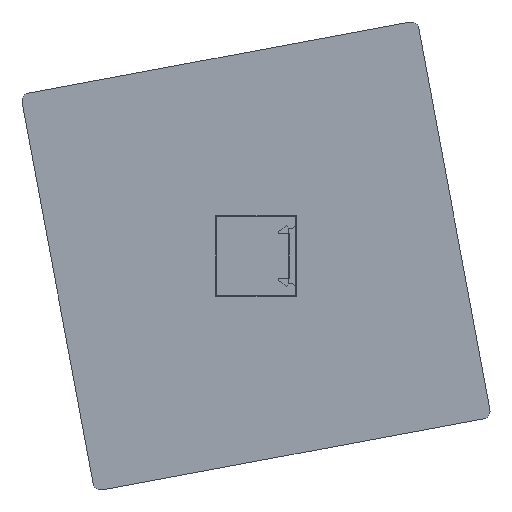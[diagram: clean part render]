
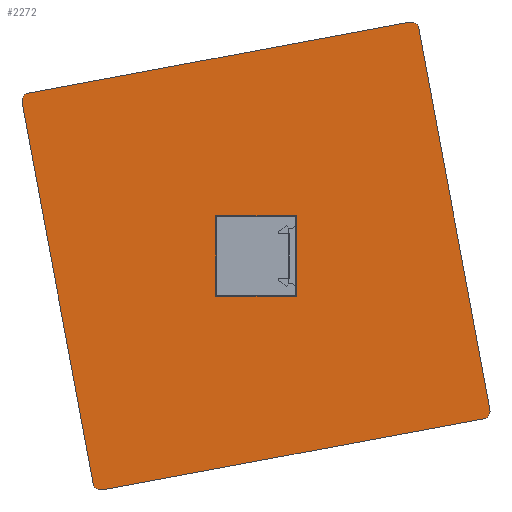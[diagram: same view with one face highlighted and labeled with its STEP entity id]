
A CAD part, left-side view. The second image highlights one B-rep face of the part: STEP entity #2272.
In plain terms, the highlighted planar face has unit normal (-1, 0, 0).
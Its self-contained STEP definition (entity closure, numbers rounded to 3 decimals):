
#11 = CARTESIAN_POINT ( 'NONE',  ( 875.5, 40.352, -56.354 ) ) ;
#67 = AXIS2_PLACEMENT_3D ( 'NONE', #473, #1870, #232 ) ;
#113 = CARTESIAN_POINT ( 'NONE',  ( 875.5, 0., 0. ) ) ;
#161 = DIRECTION ( 'NONE',  ( 0., -0.983, 0.183 ) ) ;
#208 = AXIS2_PLACEMENT_3D ( 'NONE', #2959, #1569, #161 ) ;
#231 = CARTESIAN_POINT ( 'NONE',  ( 875.5, 57.953, 38.019 ) ) ;
#232 = DIRECTION ( 'NONE',  ( 0., -0.983, 0.183 ) ) ;
#273 = VECTOR ( 'NONE', #275, 1000. ) ;
#275 = DIRECTION ( 'NONE',  ( 0., -0.183, -0.983 ) ) ;
#325 = ORIENTED_EDGE ( 'NONE', *, *, #2824, .F. ) ;
#346 = EDGE_LOOP ( 'NONE', ( #370, #1385 ) ) ;
#349 = DIRECTION ( 'NONE',  ( 0., 0.183, 0.983 ) ) ;
#370 = ORIENTED_EDGE ( 'NONE', *, *, #1412, .T. ) ;
#385 = AXIS2_PLACEMENT_3D ( 'NONE', #2785, #1154, #2556 ) ;
#415 = AXIS2_PLACEMENT_3D ( 'NONE', #788, #2412, #1920 ) ;
#449 = CIRCLE ( 'NONE', #385, 2. ) ;
#463 = LINE ( 'NONE', #2550, #2322 ) ;
#464 = LINE ( 'NONE', #1944, #2245 ) ;
#473 = CARTESIAN_POINT ( 'NONE',  ( 875.5, 55.987, 38.386 ) ) ;
#498 = DIRECTION ( 'NONE',  ( -1., 0., 0. ) ) ;
#510 = VERTEX_POINT ( 'NONE', #1728 ) ;
#527 = CARTESIAN_POINT ( 'NONE',  ( 875.5, -58.32, -39.985 ) ) ;
#578 = CARTESIAN_POINT ( 'NONE',  ( 875.5, -40.352, 56.354 ) ) ;
#593 = AXIS2_PLACEMENT_3D ( 'NONE', #113, #1749, #349 ) ;
#694 = VERTEX_POINT ( 'NONE', #2803 ) ;
#718 = CARTESIAN_POINT ( 'NONE',  ( 875.5, 1.1, 5.898 ) ) ;
#720 = EDGE_CURVE ( 'NONE', #735, #1508, #2375, .T. ) ;
#735 = VERTEX_POINT ( 'NONE', #1635 ) ;
#750 = LINE ( 'NONE', #769, #1441 ) ;
#769 = CARTESIAN_POINT ( 'NONE',  ( 875.5, 39.985, -58.32 ) ) ;
#771 = ORIENTED_EDGE ( 'NONE', *, *, #720, .T. ) ;
#774 = EDGE_CURVE ( 'NONE', #2557, #1404, #449, .T. ) ;
#788 = CARTESIAN_POINT ( 'NONE',  ( 875.5, 0., 0. ) ) ;
#796 = AXIS2_PLACEMENT_3D ( 'NONE', #3001, #498, #2122 ) ;
#834 = EDGE_CURVE ( 'NONE', #694, #1787, #2778, .T. ) ;
#856 = AXIS2_PLACEMENT_3D ( 'NONE', #3008, #1362, #2768 ) ;
#1096 = ORIENTED_EDGE ( 'NONE', *, *, #1202, .T. ) ;
#1118 = ORIENTED_EDGE ( 'NONE', *, *, #774, .T. ) ;
#1154 = DIRECTION ( 'NONE',  ( -1., 0., 0. ) ) ;
#1202 = EDGE_CURVE ( 'NONE', #1709, #510, #2040, .T. ) ;
#1251 = CARTESIAN_POINT ( 'NONE',  ( 875.5, -38.019, 57.953 ) ) ;
#1362 = DIRECTION ( 'NONE',  ( -1., 0., 0. ) ) ;
#1385 = ORIENTED_EDGE ( 'NONE', *, *, #2558, .T. ) ;
#1404 = VERTEX_POINT ( 'NONE', #1251 ) ;
#1412 = EDGE_CURVE ( 'NONE', #2007, #2963, #1963, .T. ) ;
#1441 = VECTOR ( 'NONE', #2404, 1000. ) ;
#1493 = DIRECTION ( 'NONE',  ( 0., -0.983, 0.183 ) ) ;
#1508 = VERTEX_POINT ( 'NONE', #231 ) ;
#1516 = ORIENTED_EDGE ( 'NONE', *, *, #2398, .F. ) ;
#1569 = DIRECTION ( 'NONE',  ( -1., 0., 0. ) ) ;
#1623 = DIRECTION ( 'NONE',  ( 0., 0.183, 0.983 ) ) ;
#1635 = CARTESIAN_POINT ( 'NONE',  ( 875.5, 56.354, 40.352 ) ) ;
#1709 = VERTEX_POINT ( 'NONE', #11 ) ;
#1728 = CARTESIAN_POINT ( 'NONE',  ( 875.5, 38.019, -57.953 ) ) ;
#1729 = ORIENTED_EDGE ( 'NONE', *, *, #2498, .F. ) ;
#1739 = FACE_OUTER_BOUND ( 'NONE', #1824, .T. ) ;
#1749 = DIRECTION ( 'NONE',  ( 1., 0., 0. ) ) ;
#1780 = ORIENTED_EDGE ( 'NONE', *, *, #2456, .F. ) ;
#1787 = VERTEX_POINT ( 'NONE', #1885 ) ;
#1824 = EDGE_LOOP ( 'NONE', ( #325, #1096, #1780, #2337, #1516, #1118, #1729, #771 ) ) ;
#1870 = DIRECTION ( 'NONE',  ( -1., 0., 0. ) ) ;
#1885 = CARTESIAN_POINT ( 'NONE',  ( 875.5, -57.953, -38.019 ) ) ;
#1920 = DIRECTION ( 'NONE',  ( 0., 0.183, 0.983 ) ) ;
#1944 = CARTESIAN_POINT ( 'NONE',  ( 875.5, 58.32, 39.985 ) ) ;
#1963 = CIRCLE ( 'NONE', #415, 6. ) ;
#2007 = VERTEX_POINT ( 'NONE', #2640 ) ;
#2040 = CIRCLE ( 'NONE', #208, 2. ) ;
#2122 = DIRECTION ( 'NONE',  ( 0., -0.983, 0.183 ) ) ;
#2133 = LINE ( 'NONE', #527, #273 ) ;
#2245 = VECTOR ( 'NONE', #1493, 1000. ) ;
#2272 = ADVANCED_FACE ( 'NONE', ( #2980, #1739 ), #2541, .T. ) ;
#2322 = VECTOR ( 'NONE', #1623, 1000. ) ;
#2337 = ORIENTED_EDGE ( 'NONE', *, *, #834, .T. ) ;
#2375 = CIRCLE ( 'NONE', #67, 2. ) ;
#2398 = EDGE_CURVE ( 'NONE', #2557, #1787, #2133, .T. ) ;
#2404 = DIRECTION ( 'NONE',  ( 0., 0.983, -0.183 ) ) ;
#2412 = DIRECTION ( 'NONE',  ( 1., 0., 0. ) ) ;
#2456 = EDGE_CURVE ( 'NONE', #694, #510, #750, .T. ) ;
#2498 = EDGE_CURVE ( 'NONE', #735, #1404, #464, .T. ) ;
#2541 = PLANE ( 'NONE',  #796 ) ;
#2550 = CARTESIAN_POINT ( 'NONE',  ( 875.5, 39.985, -58.32 ) ) ;
#2556 = DIRECTION ( 'NONE',  ( 0., -0.983, 0.183 ) ) ;
#2557 = VERTEX_POINT ( 'NONE', #578 ) ;
#2558 = EDGE_CURVE ( 'NONE', #2963, #2007, #2721, .T. ) ;
#2640 = CARTESIAN_POINT ( 'NONE',  ( 875.5, -1.1, -5.898 ) ) ;
#2721 = CIRCLE ( 'NONE', #593, 6. ) ;
#2768 = DIRECTION ( 'NONE',  ( 0., -0.983, 0.183 ) ) ;
#2778 = CIRCLE ( 'NONE', #856, 2. ) ;
#2785 = CARTESIAN_POINT ( 'NONE',  ( 875.5, -38.386, 55.987 ) ) ;
#2803 = CARTESIAN_POINT ( 'NONE',  ( 875.5, -56.354, -40.352 ) ) ;
#2824 = EDGE_CURVE ( 'NONE', #1709, #1508, #463, .T. ) ;
#2959 = CARTESIAN_POINT ( 'NONE',  ( 875.5, 38.386, -55.987 ) ) ;
#2963 = VERTEX_POINT ( 'NONE', #718 ) ;
#2980 = FACE_BOUND ( 'NONE', #346, .T. ) ;
#3001 = CARTESIAN_POINT ( 'NONE',  ( 875.5, 0., 0. ) ) ;
#3008 = CARTESIAN_POINT ( 'NONE',  ( 875.5, -55.987, -38.386 ) ) ;
